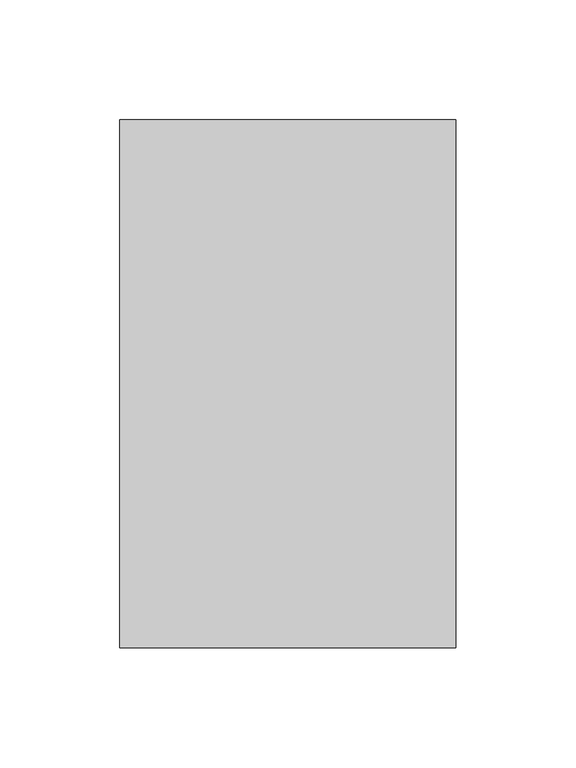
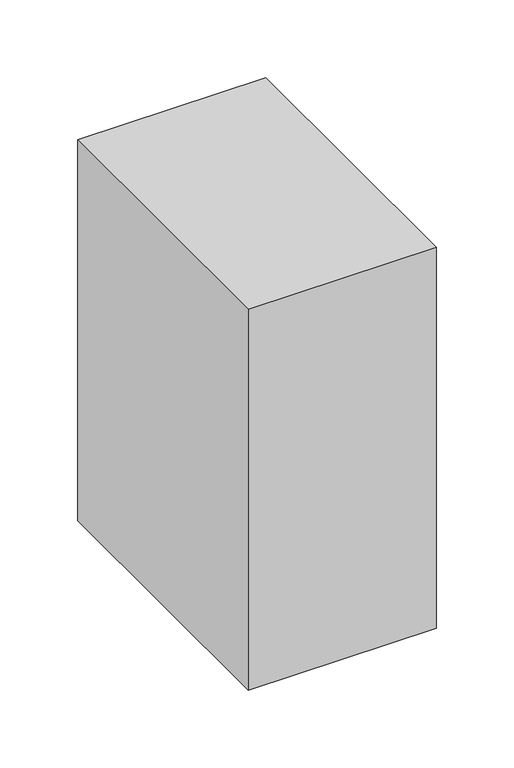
"""IFC4 building model written with IfcOpenShell, lengths in millimetres: proxy geometry."""

from ifc_helpers import new_model, si_unit, frame, origin, place, context, project, spatial, polyline, outline, extrude, source, transform, mapped, element, save


def structural_framing_4da262b5(model_context):
    return source(origin(), model_context, "Body", "SweptSolid", [
        extrude(outline(polyline([(70.0, -110.0099986), (-70.0, -110.0099986), (-70.0, 110.0099986), (70.0, 110.0099986), (70.0, -110.0099986)])), frame((0.0, 0.0, -300.0), z_axis=(0.0, 0.0, 1.0), x_axis=(1.0, 0.0, 0.0)), (0.0, 0.0, 1.0), 300.0),
    ])


if __name__ == "__main__":
    model = new_model("IFC4")
    model_context = context("Model", 3, world=origin())
    ifc_project = project(units=[si_unit("LENGTHUNIT", "METRE", prefix="MILLI")], contexts=[model_context])
    site = spatial("IfcSite", under=ifc_project)
    building = spatial("IfcBuilding", under=site)
    placement = place(None, origin())
    structural_framing_shape = structural_framing_4da262b5(model_context)
    element("IfcBuildingElementProxy", 1, Name="Structural Framing", at=placement, inside=building, context=model_context, shape_type="MappedRepresentation", body=[
        mapped(structural_framing_shape, transform((0.0, 0.0, 0.0), x_axis=(1.0, 0.0, 0.0), y_axis=(0.0, 1.0, 0.0), z_axis=(0.0, 0.0, 1.0))),
    ])
    save(model, "model.ifc")
